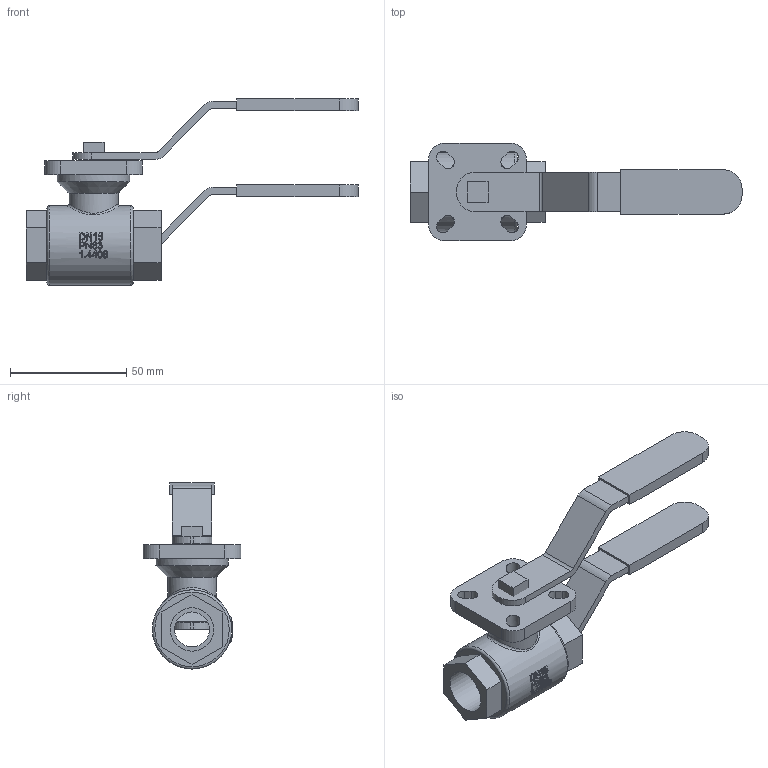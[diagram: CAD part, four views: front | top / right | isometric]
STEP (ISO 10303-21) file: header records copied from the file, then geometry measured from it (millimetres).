
FILE_DESCRIPTION( ( 'Unknown' ), '1' );
FILE_NAME( 'J:/Muud/ROOTSI BPS 3D vidinad/Kuulkraanid/Roostevaba kuulkraanid/Ball valve BPS 2411/Ball valve with hand lever BPS/STEP formaat/BPS 2411015 ball valve DN15.stp', 'Unknown', ( 'Unknown' ), ( 'Unknown' ), 'PSStep 10.1', 'Unknown', ' ' );
FILE_SCHEMA( ( 'AUTOMOTIVE_DESIGN { 1 0 10303 214 1 1 1 1 }' ) );
Length unit declared in the file: millimetre
Products named in the file (3): Assem1; BPS 2411015 ball valve DN15; Hand lever for ball valve DN8-20 BPS 2411
Bounding box: 142.5 x 42 x 79.9 mm (x, y, z)
Volume: 118015 mm3; surface area: 42324.2 mm2
Topology: 4 solids, 4 shells, 428 faces, 1108 edges, 732 vertices
Faces by surface type: plane 238, cylinder 102, bspline 82, torus 4, cone 2
Full cylindrical faces by diameter (mm): 3 x2, 15 x2, 18.631 x4, 21 x2, 31 x2, 34 x2
Entity records: 11569 total; most frequent: CARTESIAN_POINT 5440, ORIENTED_EDGE 1032, DIRECTION 628, EDGE_CURVE 516, VERTEX_POINT 350, B_SPLINE_CURVE_WITH_KNOTS 306, EDGE_LOOP 266, AXIS2_PLACEMENT_3D 244
